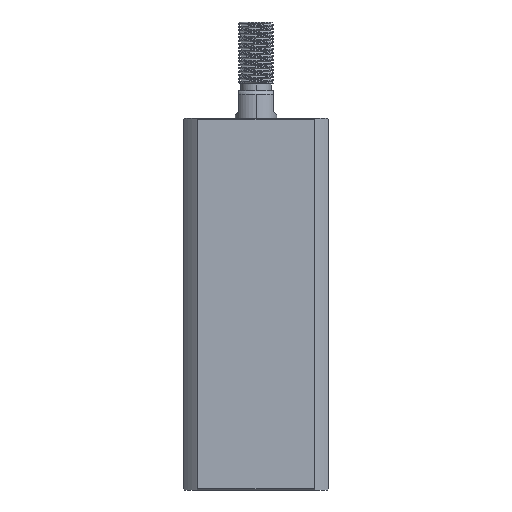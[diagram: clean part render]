
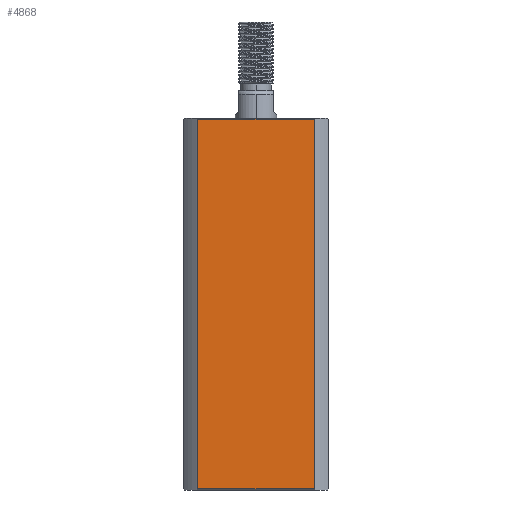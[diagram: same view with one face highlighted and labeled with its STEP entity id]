
A CAD part, left-side view. The second image highlights one B-rep face of the part: STEP entity #4868.
In plain terms, the highlighted planar face has unit normal (-1, 0, 0).
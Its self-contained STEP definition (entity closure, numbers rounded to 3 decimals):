
#14 = CARTESIAN_POINT ( 'NONE',  ( -21., -16.971, 0.3 ) ) ;
#63 = CARTESIAN_POINT ( 'NONE',  ( -21., -16.971, 107.7 ) ) ;
#95 = LINE ( 'NONE', #10223, #14725 ) ;
#105 = ORIENTED_EDGE ( 'NONE', *, *, #5970, .T. ) ;
#252 = DIRECTION ( 'NONE',  ( 1., 0., 0. ) ) ;
#2122 = EDGE_CURVE ( 'NONE', #10658, #11894, #95, .T. ) ;
#3203 = LINE ( 'NONE', #5717, #14747 ) ;
#3238 = LINE ( 'NONE', #6978, #9116 ) ;
#3650 = ORIENTED_EDGE ( 'NONE', *, *, #2122, .T. ) ;
#4058 = LINE ( 'NONE', #6161, #11760 ) ;
#4868 = ADVANCED_FACE ( 'NONE', ( #6991 ), #14119, .F. ) ;
#4883 = CARTESIAN_POINT ( 'NONE',  ( -21., 21., 108. ) ) ;
#4906 = EDGE_LOOP ( 'NONE', ( #9651, #3650, #5988, #105 ) ) ;
#5692 = AXIS2_PLACEMENT_3D ( 'NONE', #4883, #252, #8416 ) ;
#5717 = CARTESIAN_POINT ( 'NONE',  ( -21., 16.971, -42. ) ) ;
#5802 = DIRECTION ( 'NONE',  ( 0., 0., -1. ) ) ;
#5970 = EDGE_CURVE ( 'NONE', #9072, #14421, #4058, .T. ) ;
#5988 = ORIENTED_EDGE ( 'NONE', *, *, #10490, .F. ) ;
#6161 = CARTESIAN_POINT ( 'NONE',  ( -21., 21., 107.7 ) ) ;
#6978 = CARTESIAN_POINT ( 'NONE',  ( -21., -16.971, -42. ) ) ;
#6991 = FACE_OUTER_BOUND ( 'NONE', #4906, .T. ) ;
#8416 = DIRECTION ( 'NONE',  ( 0., 1., 0. ) ) ;
#9072 = VERTEX_POINT ( 'NONE', #63 ) ;
#9116 = VECTOR ( 'NONE', #5802, 1000. ) ;
#9651 = ORIENTED_EDGE ( 'NONE', *, *, #12567, .F. ) ;
#10223 = CARTESIAN_POINT ( 'NONE',  ( -21., 21., 0.3 ) ) ;
#10417 = DIRECTION ( 'NONE',  ( 0., -1., 0. ) ) ;
#10490 = EDGE_CURVE ( 'NONE', #9072, #11894, #3238, .T. ) ;
#10658 = VERTEX_POINT ( 'NONE', #12941 ) ;
#10700 = CARTESIAN_POINT ( 'NONE',  ( -21., 16.971, 107.7 ) ) ;
#11760 = VECTOR ( 'NONE', #14199, 1000. ) ;
#11894 = VERTEX_POINT ( 'NONE', #14 ) ;
#12567 = EDGE_CURVE ( 'NONE', #10658, #14421, #3203, .T. ) ;
#12941 = CARTESIAN_POINT ( 'NONE',  ( -21., 16.971, 0.3 ) ) ;
#13776 = DIRECTION ( 'NONE',  ( 0., 0., 1. ) ) ;
#14119 = PLANE ( 'NONE',  #5692 ) ;
#14199 = DIRECTION ( 'NONE',  ( 0., 1., 0. ) ) ;
#14421 = VERTEX_POINT ( 'NONE', #10700 ) ;
#14725 = VECTOR ( 'NONE', #10417, 1000. ) ;
#14747 = VECTOR ( 'NONE', #13776, 1000. ) ;
